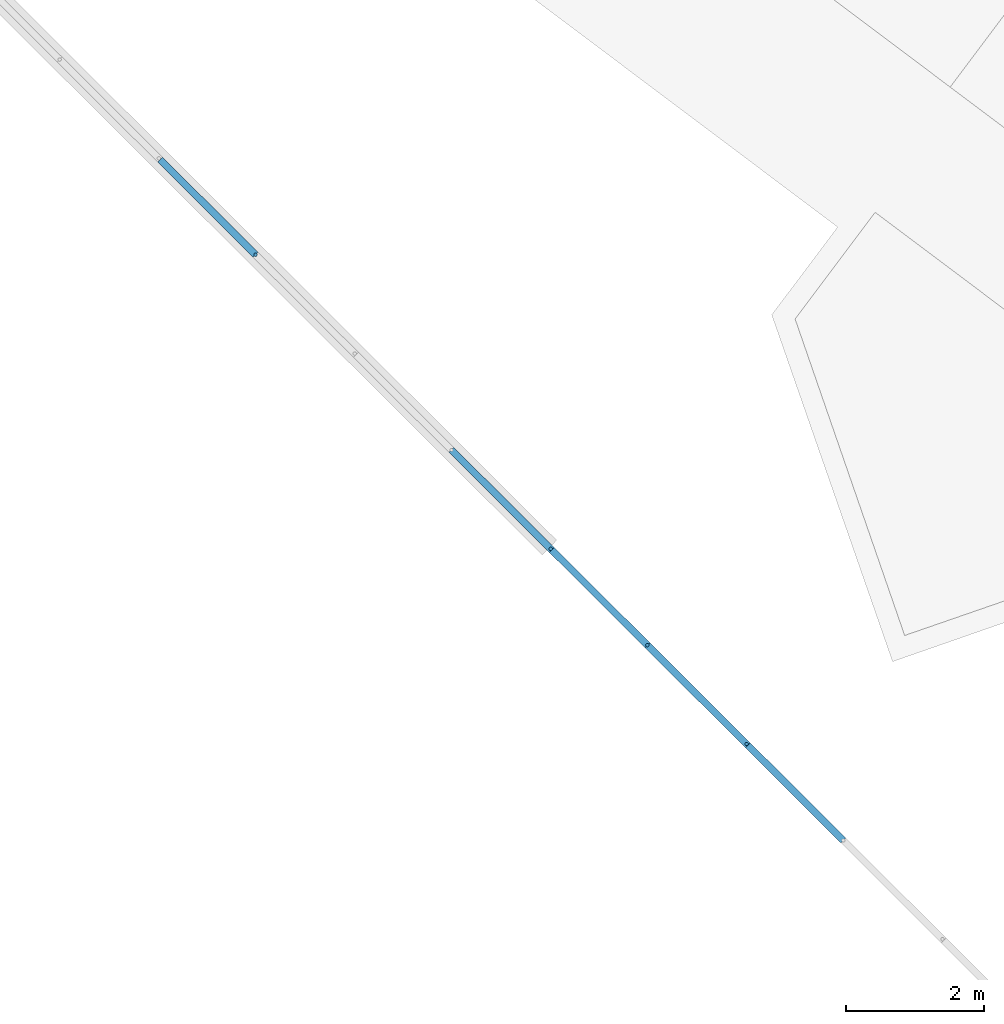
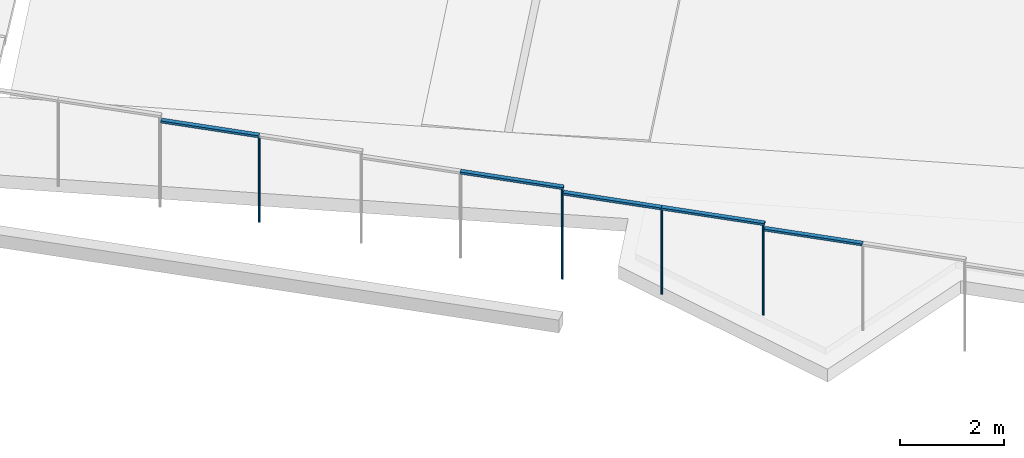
# One storey, part 10 of 33: 11 members, 4 elements without a shape of their own.
"""IFC2X3 building model written with IfcOpenShell, lengths in metres."""

from ifc_helpers import new_model, entity, si_unit, converted_unit, derived_unit, direction, frame, frame_2d, origin, origin_2d_with_axis, place, context, subcontext, project, spatial, rectangle, circle, extrude, source, transform, mapped, material, type_object, type_shapes, element, aggregate, save


model = new_model("IFC2X3")

# Units and contexts
model_context = context("Model", 3, precision=1e-05, world=origin(), true_north=direction((6.123031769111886e-17, 1.0)))
body_context = subcontext(model_context, "Body", "Model", "MODEL_VIEW")
ifc_project = project(units=[si_unit("LENGTHUNIT", "METRE"), si_unit("AREAUNIT", "SQUARE_METRE"), si_unit("VOLUMEUNIT", "CUBIC_METRE"), converted_unit("PLANEANGLEUNIT", "DEGREE", entity("IfcRatioMeasure", 0.017453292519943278), si_unit("PLANEANGLEUNIT", "RADIAN"), dimensions=[0, 0, 0, 0, 0, 0, 0]), si_unit("MASSUNIT", "GRAM", prefix="KILO"), derived_unit("MASSDENSITYUNIT", [(si_unit("MASSUNIT", "GRAM", prefix="KILO"), 1), (si_unit("LENGTHUNIT", "METRE"), -3)]), derived_unit("IONCONCENTRATIONUNIT", [(si_unit("MASSUNIT", "GRAM", prefix="KILO"), 1), (si_unit("LENGTHUNIT", "METRE"), -3)]), derived_unit("MOMENTOFINERTIAUNIT", [(si_unit("LENGTHUNIT", "METRE"), 4)]), si_unit("TIMEUNIT", "SECOND"), si_unit("FREQUENCYUNIT", "HERTZ"), si_unit("THERMODYNAMICTEMPERATUREUNIT", "DEGREE_CELSIUS"), derived_unit("THERMALTRANSMITTANCEUNIT", [(si_unit("MASSUNIT", "GRAM", prefix="KILO"), 1), (si_unit("THERMODYNAMICTEMPERATUREUNIT", "KELVIN"), -1), (si_unit("TIMEUNIT", "SECOND"), -3)]), derived_unit("THERMALCONDUCTANCEUNIT", [(si_unit("MASSUNIT", "GRAM", prefix="KILO"), 1), (si_unit("THERMODYNAMICTEMPERATUREUNIT", "KELVIN"), -1), (si_unit("TIMEUNIT", "SECOND"), -3), (si_unit("LENGTHUNIT", "METRE"), 1)]), derived_unit("VOLUMETRICFLOWRATEUNIT", [(si_unit("LENGTHUNIT", "METRE"), 3), (si_unit("TIMEUNIT", "SECOND"), -1)]), derived_unit("MASSFLOWRATEUNIT", [(si_unit("MASSUNIT", "GRAM", prefix="KILO"), 1), (si_unit("TIMEUNIT", "SECOND"), -1)]), derived_unit("ROTATIONALFREQUENCYUNIT", [(si_unit("TIMEUNIT", "SECOND"), -1)]), si_unit("ELECTRICCURRENTUNIT", "AMPERE"), si_unit("ELECTRICVOLTAGEUNIT", "VOLT"), si_unit("POWERUNIT", "WATT"), si_unit("FORCEUNIT", "NEWTON", prefix="KILO"), si_unit("ILLUMINANCEUNIT", "LUX"), si_unit("LUMINOUSFLUXUNIT", "LUMEN"), si_unit("LUMINOUSINTENSITYUNIT", "CANDELA"), derived_unit("USERDEFINED", [(si_unit("MASSUNIT", "GRAM", prefix="KILO"), -1), (si_unit("LENGTHUNIT", "METRE"), -2), (si_unit("TIMEUNIT", "SECOND"), 3), (si_unit("LUMINOUSFLUXUNIT", "LUMEN"), 1)]), derived_unit("USERDEFINED", [(si_unit("MASSUNIT", "GRAM", prefix="KILO"), 1), (si_unit("TIMEUNIT", "SECOND"), -3), (si_unit("LENGTHUNIT", "METRE"), 3), (si_unit("ELECTRICCURRENTUNIT", "AMPERE"), -2)]), derived_unit("SOUNDPOWERUNIT", [(si_unit("MASSUNIT", "GRAM", prefix="KILO"), 1), (si_unit("TIMEUNIT", "SECOND"), -3), (si_unit("LENGTHUNIT", "METRE"), 2)]), derived_unit("SOUNDPRESSUREUNIT", [(si_unit("MASSUNIT", "GRAM", prefix="KILO"), 1), (si_unit("LENGTHUNIT", "METRE"), -1), (si_unit("TIMEUNIT", "SECOND"), -2)]), derived_unit("LINEARVELOCITYUNIT", [(si_unit("LENGTHUNIT", "METRE"), 1), (si_unit("TIMEUNIT", "SECOND"), -1)]), si_unit("PRESSUREUNIT", "PASCAL"), derived_unit("USERDEFINED", [(si_unit("MASSUNIT", "GRAM", prefix="KILO"), 1), (si_unit("LENGTHUNIT", "METRE"), -2), (si_unit("TIMEUNIT", "SECOND"), -2)]), derived_unit("LINEARFORCEUNIT", [(si_unit("MASSUNIT", "GRAM", prefix="KILO"), 1), (si_unit("TIMEUNIT", "SECOND"), -2)]), derived_unit("PLANARFORCEUNIT", [(si_unit("MASSUNIT", "GRAM", prefix="KILO"), 1), (si_unit("LENGTHUNIT", "METRE"), -1), (si_unit("TIMEUNIT", "SECOND"), -2)]), derived_unit("SPECIFICHEATCAPACITYUNIT", [(si_unit("THERMODYNAMICTEMPERATUREUNIT", "KELVIN"), -1), (si_unit("LENGTHUNIT", "METRE"), 2), (si_unit("TIMEUNIT", "SECOND"), -2)]), derived_unit("HEATINGVALUEUNIT", [(si_unit("LENGTHUNIT", "METRE"), 2), (si_unit("TIMEUNIT", "SECOND"), -2)]), derived_unit("VAPORPERMEABILITYUNIT", [(si_unit("LENGTHUNIT", "METRE"), -1), (si_unit("TIMEUNIT", "SECOND"), 1)]), derived_unit("DYNAMICVISCOSITYUNIT", [(si_unit("MASSUNIT", "GRAM", prefix="KILO"), 1), (si_unit("TIMEUNIT", "SECOND"), -1), (si_unit("LENGTHUNIT", "METRE"), -1)]), derived_unit("THERMALEXPANSIONCOEFFICIENTUNIT", [(si_unit("THERMODYNAMICTEMPERATUREUNIT", "KELVIN"), -1)]), derived_unit("MODULUSOFELASTICITYUNIT", [(si_unit("MASSUNIT", "GRAM", prefix="KILO"), 1), (si_unit("LENGTHUNIT", "METRE"), -1), (si_unit("TIMEUNIT", "SECOND"), -2)]), derived_unit("ISOTHERMALMOISTURECAPACITYUNIT", [(si_unit("LENGTHUNIT", "METRE"), 3), (si_unit("MASSUNIT", "GRAM", prefix="KILO"), -1)]), derived_unit("MOISTUREDIFFUSIVITYUNIT", [(si_unit("TIMEUNIT", "SECOND"), -1), (si_unit("LENGTHUNIT", "METRE"), 2)])], contexts=[model_context])

# Site, building, storey
site_placement = place(None, origin())
site = spatial("IfcSite", under=ifc_project, at=site_placement, Name="Superficie", CompositionType="ELEMENT")
building_placement = place(site_placement, frame((0.0, 0.0, 235.0), z_axis=(0.0, 0.0, 1.0), x_axis=(-0.7996477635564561, 0.6004693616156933, 0.0)))
building = spatial("IfcBuilding", under=site, at=building_placement, CompositionType="ELEMENT")
storey_placement = place(building_placement, origin())
storey = spatial("IfcBuildingStorey", under=building, at=storey_placement, Name="P0- Escola", CompositionType="ELEMENT", Elevation=0.0)

# Curtain wall, member
curtain_wall_type = type_object("IfcCurtainWallType", Name="Muro cortina:SER EXT- Tanca exterior", PredefinedType="NOTDEFINED")
curtain_wall_1_placement = place(storey_placement, origin())
curtain_wall_1 = element("IfcCurtainWall", 1, at=curtain_wall_1_placement, inside=storey, type_object=curtain_wall_type, Name="Muro cortina:SER EXT- Tanca exterior", ObjectType="Muro cortina:SER EXT- Tanca exterior")
ifc_material_1 = material(Name="Acero inoxidable")
member_type_1 = type_object("IfcMemberType", Name="Montante circular:Perfil Tanca exterior", PredefinedType="MULLION", material=ifc_material_1)
shared_shape_1 = source(origin(), body_context, "Body", "SweptSolid", [
    extrude(circle(Radius=0.025, at=frame_2d((-2.1149748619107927e-18, -4.0388614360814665e-17), x_axis=(1.0, 0.0))), frame((0.0, 0.0, -2.0), z_axis=(0.0, 0.0, 1.0), x_axis=(-1.0, 0.0, 0.0)), (0.0, 0.0, 1.0), 1.9999999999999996),
])
type_shapes(member_type_1, [shared_shape_1])
member_1_placement = place(curtain_wall_1_placement, frame((60.700082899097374, -11.055952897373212, 2.595), z_axis=(0.0, 0.0, -1.0), x_axis=(0.9902804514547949, -0.13908496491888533, 0.0)))
member_1 = element("IfcMember", 2, at=member_1_placement, type_object=member_type_1, material=ifc_material_1, Name="Montante circular:Perfil Tanca exterior", ObjectType="Montante circular:Perfil Tanca exterior", context=body_context, shape_type="MappedRepresentation", body=[
    mapped(shared_shape_1, transform((0.0, 0.0, 0.0), scale=1.0)),
])

curtain_wall_2_placement = place(storey_placement, origin())
curtain_wall_2 = element("IfcCurtainWall", 3, at=curtain_wall_2_placement, inside=storey, type_object=curtain_wall_type, Name="Muro cortina:SER EXT- Tanca exterior", ObjectType="Muro cortina:SER EXT- Tanca exterior")
member_2_placement = place(curtain_wall_2_placement, frame((68.6223264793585, -12.168632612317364, 2.847), z_axis=(0.0, 0.0, -1.0), x_axis=(0.9902804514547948, -0.13908496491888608, 0.0)))
member_2 = element("IfcMember", 4, at=member_2_placement, type_object=member_type_1, material=ifc_material_1, Name="Montante circular:Perfil Tanca exterior", ObjectType="Montante circular:Perfil Tanca exterior", context=body_context, shape_type="MappedRepresentation", body=[
    mapped(shared_shape_1, transform((0.0, 0.0, 0.0), scale=1.0)),
])

# Member
member_type_2 = type_object("IfcMemberType", Name="Montante circular:Perfil Tanca exterior", PredefinedType="MULLION", material=ifc_material_1)
shared_shape_2 = source(origin(), body_context, "Body", "SweptSolid", [
    extrude(circle(Radius=0.025, at=frame_2d((-1.304992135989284e-31, 4.038861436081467e-17), x_axis=(1.0, 0.0))), frame((-0.025, 0.0, -2.0)), (0.0, 0.0, 1.0), 1.9999999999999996),
])
type_shapes(member_type_2, [shared_shape_2])
member_3_placement = place(curtain_wall_1_placement, frame((58.67000798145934, -10.770828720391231, 4.595), z_axis=(0.0, 0.0, 1.0), x_axis=(-0.9902804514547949, 0.13908496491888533, 0.0)))
member_3 = element("IfcMember", 5, at=member_3_placement, type_object=member_type_2, material=ifc_material_1, Name="Montante circular:Perfil Tanca exterior", ObjectType="Montante circular:Perfil Tanca exterior", context=body_context, shape_type="MappedRepresentation", body=[
    mapped(shared_shape_2, transform((0.0, 0.0, 0.0), scale=1.0)),
])

# Curtain wall, member
curtain_wall_3_placement = place(storey_placement, origin())
curtain_wall_3 = element("IfcCurtainWall", 6, at=curtain_wall_3_placement, inside=storey, type_object=curtain_wall_type, Name="Muro cortina:SER EXT- Tanca exterior", ObjectType="Muro cortina:SER EXT- Tanca exterior")
member_4_placement = place(curtain_wall_3_placement, frame((62.631129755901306, -11.32716857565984, 4.72), z_axis=(0.0, 0.0, 1.0), x_axis=(-0.9902804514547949, 0.1390849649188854, 0.0)))
member_4 = element("IfcMember", 7, at=member_4_placement, type_object=member_type_2, material=ifc_material_1, Name="Montante circular:Perfil Tanca exterior", ObjectType="Montante circular:Perfil Tanca exterior", context=body_context, shape_type="MappedRepresentation", body=[
    mapped(shared_shape_2, transform((0.0, 0.0, 0.0), scale=1.0)),
])

# Member
ifc_material_2 = material(Name="_Formigó- Solera- T1- STR")
member_type_3 = type_object("IfcMemberType", Name="Montante rectangular:Montante rectangular 100x50", PredefinedType="MULLION", material=ifc_material_2)
shared_shape_3 = source(origin(), body_context, "Body", "SweptSolid", [
    extrude(rectangle(XDim=0.1, YDim=0.05000000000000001, at=origin_2d_with_axis()), frame((-0.025000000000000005, 0.0, -2.0499999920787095), z_axis=(0.0, 0.0, 1.0), x_axis=(0.0, -1.0, 0.0)), (0.0, 0.0, 1.0), 2.04999999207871),
])
type_shapes(member_type_3, [shared_shape_3])
member_5_placement = place(curtain_wall_1_placement, frame((60.700082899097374, -11.055952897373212, 4.645), z_axis=(0.990280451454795, -0.13908496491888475, 0.0), x_axis=(0.0, 0.0, 1.0)))
member_5 = element("IfcMember", 8, at=member_5_placement, type_object=member_type_3, material=ifc_material_2, Name="Montante rectangular:Montante rectangular 100x50", ObjectType="Montante rectangular:Montante rectangular 100x50", context=body_context, shape_type="MappedRepresentation", body=[
    mapped(shared_shape_3, transform((0.0, 0.0, 0.0), scale=1.0)),
])

member_6_placement = place(curtain_wall_3_placement, frame((64.66120468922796, -11.612292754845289, 4.77), z_axis=(0.9902804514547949, -0.13908496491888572, 0.0), x_axis=(0.0, 0.0, 1.0)))
member_6 = element("IfcMember", 9, at=member_6_placement, type_object=member_type_3, material=ifc_material_2, Name="Montante rectangular:Montante rectangular 100x50", ObjectType="Montante rectangular:Montante rectangular 100x50", context=body_context, shape_type="MappedRepresentation", body=[
    mapped(shared_shape_3, transform((0.0, 0.0, 0.0), scale=1.0)),
])

aggregate(curtain_wall_3, [member_4, member_6])

# Curtain wall, member
curtain_wall_4_placement = place(storey_placement, origin())
curtain_wall_4 = element("IfcCurtainWall", 10, at=curtain_wall_4_placement, inside=storey, type_object=curtain_wall_type, Name="Muro cortina:SER EXT- Tanca exterior", ObjectType="Muro cortina:SER EXT- Tanca exterior")
member_type_4 = type_object("IfcMemberType", Name="Montante circular:Perfil Tanca exterior", PredefinedType="MULLION", material=ifc_material_1)
shared_shape_4 = source(origin(), body_context, "Body", "SweptSolid", [
    extrude(circle(Radius=0.025, at=frame_2d((1.3661718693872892e-31, -4.46185640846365e-17), x_axis=(1.0, 0.0))), frame((-0.025, 0.0, -2.0499999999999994), z_axis=(0.0, 0.0, 1.0), x_axis=(-1.0, 0.0, 0.0)), (0.0, 0.0, 1.0), 2.0499999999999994),
])
type_shapes(member_type_4, [shared_shape_4])
member_7_placement = place(curtain_wall_4_placement, frame((58.719522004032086, -10.777782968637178, 2.47), z_axis=(0.0, 0.0, -1.0), x_axis=(0.9902804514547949, -0.13908496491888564, 0.0)))
member_7 = element("IfcMember", 11, at=member_7_placement, type_object=member_type_4, material=ifc_material_1, Name="Montante circular:Perfil Tanca exterior", ObjectType="Montante circular:Perfil Tanca exterior", context=body_context, shape_type="MappedRepresentation", body=[
    mapped(shared_shape_4, transform((0.0, 0.0, 0.0), scale=1.0)),
])

# Member
member_8_placement = place(curtain_wall_1_placement, frame((62.68064379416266, -11.334122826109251, 2.595), z_axis=(0.0, 0.0, -1.0), x_axis=(0.9902804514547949, -0.13908496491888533, 0.0)))
member_8 = element("IfcMember", 12, at=member_8_placement, type_object=member_type_4, material=ifc_material_1, Name="Montante circular:Perfil Tanca exterior", ObjectType="Montante circular:Perfil Tanca exterior", context=body_context, shape_type="MappedRepresentation", body=[
    mapped(shared_shape_4, transform((0.0, 0.0, 0.0), scale=1.0)),
])

member_type_5 = type_object("IfcMemberType", Name="Montante rectangular:Montante rectangular 100x50", PredefinedType="MULLION", material=ifc_material_2)
shared_shape_5 = source(origin(), body_context, "Body", "SweptSolid", [
    extrude(rectangle(XDim=0.1, YDim=0.05000000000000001, at=origin_2d_with_axis()), frame((-0.025000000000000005, 0.0, -1.9499999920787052), z_axis=(0.0, 0.0, 1.0), x_axis=(0.0, -1.0, 0.0)), (0.0, 0.0, 1.0), 1.9499999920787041),
])
type_shapes(member_type_5, [shared_shape_5])
member_9_placement = place(curtain_wall_4_placement, frame((58.67000798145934, -10.770828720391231, 4.52), z_axis=(0.990280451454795, -0.1390849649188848, 0.0), x_axis=(0.0, 0.0, 1.0)))
member_9 = element("IfcMember", 13, at=member_9_placement, type_object=member_type_5, material=ifc_material_2, Name="Montante rectangular:Montante rectangular 100x50", ObjectType="Montante rectangular:Montante rectangular 100x50", context=body_context, shape_type="MappedRepresentation", body=[
    mapped(shared_shape_5, transform((0.0, 0.0, 0.0), scale=1.0)),
])

aggregate(curtain_wall_4, [member_7, member_9])

member_10_placement = place(curtain_wall_1_placement, frame((62.63112977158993, -11.327168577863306, 4.645), z_axis=(0.9902804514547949, -0.1390849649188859, 0.0), x_axis=(0.0, 0.0, 1.0)))
member_10 = element("IfcMember", 14, at=member_10_placement, type_object=member_type_5, material=ifc_material_2, Name="Montante rectangular:Montante rectangular 100x50", ObjectType="Montante rectangular:Montante rectangular 100x50", context=body_context, shape_type="MappedRepresentation", body=[
    mapped(shared_shape_5, transform((0.0, 0.0, 0.0), scale=1.0)),
])

aggregate(curtain_wall_1, [member_3, member_1, member_8, member_10, member_5])

member_11_placement = place(curtain_wall_2_placement, frame((70.55337335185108, -12.439848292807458, 4.897), z_axis=(0.9902804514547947, -0.13908496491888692, 0.0), x_axis=(0.0, 0.0, 1.0)))
member_11 = element("IfcMember", 15, at=member_11_placement, type_object=member_type_5, material=ifc_material_2, Name="Montante rectangular:Montante rectangular 100x50", ObjectType="Montante rectangular:Montante rectangular 100x50", context=body_context, shape_type="MappedRepresentation", body=[
    mapped(shared_shape_5, transform((0.0, 0.0, 0.0), scale=1.0)),
])

aggregate(curtain_wall_2, [member_2, member_11])

save(model, "model.ifc")
